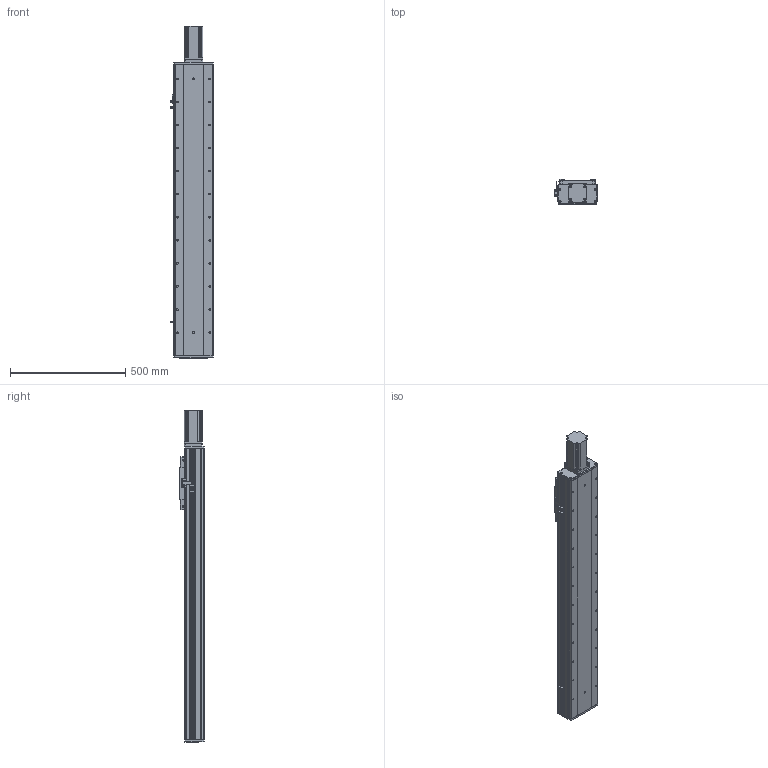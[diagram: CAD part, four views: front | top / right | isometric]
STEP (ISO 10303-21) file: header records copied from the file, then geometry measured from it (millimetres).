
FILE_DESCRIPTION (( 'STEP AP203' ), '1' );
FILE_NAME ('RY170F-L2020-300-MK.SLDASM_950.step', '2021-03-02T06:31:47', ( '盈信电脑' ), ( '东莞市道滘镇水果街19号' ), 'SwSTEP 2.0', 'SolidWorks 2012', '' );
FILE_SCHEMA (( 'CONFIG_CONTROL_DESIGN' ));
Length unit declared in the file: millimetre
Products named in the file (22): RY170F-L2020-300-MK.SLDASM_950; 覜茼ん674; 怢湛750W萇儂ㄗ80遺ㄘ; 侐源滅袉蝶; 750W萇儂梓袧蛌諉啣; 滅袉蝶18-24; RY170F俋离覜茼え; 覜茼ん672; RY170F-詩湍揤踡輸; RY170F-揤踡謫假蚾粣; 滅袉蝶18-10; RY170F-后盖板(铝件）; RY100F-詩湍揤踡謫; RY170F-直连前盖板(铝件）; 15; RY170F-丝杆铝滑块连接板; 侂狟400W侜督萇儂; RY170F-300眻蟀倰第奻裔啣-MK_950; RY170F-300眻蟀祥凄詩湍-MK_950; RY170F-佪裝臏賑輸20蹟譫; RY170F-滅鳥奻裔; RY170F-300眻蟀倰第菁釱-MK_950
Assembly tree (26 placements, depth 3):
  RY170F-L2020-300-MK.SLDASM_950
    RY170F-300眻蟀倰第菁釱-MK_950
    RY170F-300眻蟀祥凄詩湍-MK_950
    RY170F-300眻蟀倰第奻裔啣-MK_950  x2
    RY170F-滅鳥奻裔
    RY170F-佪裝臏賑輸20蹟譫
    RY170F-丝杆铝滑块连接板
    侂狟400W侜督萇儂
      15
    RY170F-直连前盖板(铝件）
    滅袉蝶18-10
    RY100F-詩湍揤踡謫
    RY170F-后盖板(铝件）
    覜茼ん672  x3
    RY170F俋离覜茼え
    RY170F-揤踡謫假蚾粣
    RY170F-詩湍揤踡輸  x2
    滅袉蝶18-24
    750W萇儂梓袧蛌諉啣
    怢湛750W萇儂ㄗ80遺ㄘ
    侐源滅袉蝶  x2
    覜茼ん674
Bounding box: 183.7 x 107 x 1439 mm (x, y, z)
Volume: 7491700.7 mm3; surface area: 2360596.6 mm2
Topology: 25 solids, 25 shells, 2300 faces, 6327 edges, 4036 vertices
Faces by surface type: cylinder 1029, plane 1001, cone 252, bspline 18
Entity records: 67355 total; most frequent: CARTESIAN_POINT 13235, DIRECTION 11097, ORIENTED_EDGE 10566, EDGE_CURVE 5283, AXIS2_PLACEMENT_3D 3964, VERTEX_POINT 3456, LINE 3169, VECTOR 3169
